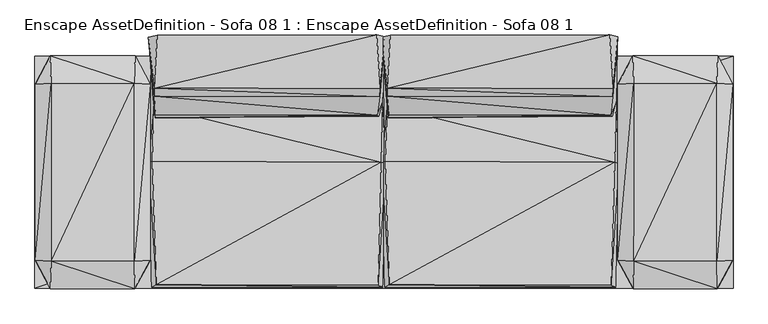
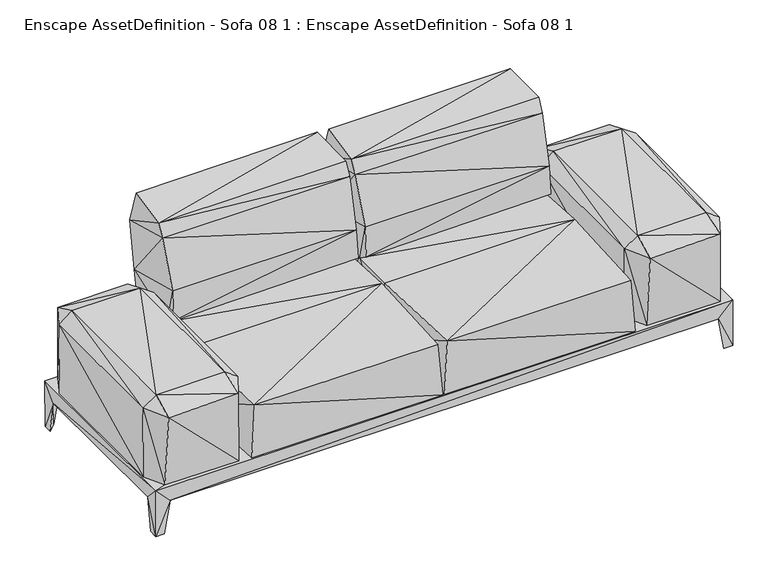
"""IFC4 building model written with IfcOpenShell, lengths in millimetres: geographic element geometry, Enscape AssetDefinition - Sofa 08 1 : Enscape AssetDefinition - Sofa 08 1."""

from ifc_helpers import new_model, si_unit, origin, place, context, project, spatial, faceted_brep, source, transform, mapped, element, save


def enscape_assetdefinition_sofa_08_1_enscape_assetdefinition_1a7c3e80(model_context):
    return source(origin(), model_context, "Body", "Brep", [
        faceted_brep([(-789.7258997, 220.4190344, 421.3458598), (-799.2539406, 382.3985159, 204.7660649), (-808.7129593, 25.8882251, 197.0976144), (-4.2853616, 383.6669028, 204.4889629), (-805.4899573, 430.4737747, 530.1804543), (-3.4210868, 236.204043, 414.9088264), (6.0689282, 25.2100099, 198.1359571), (1.3514294, 426.4724851, 532.6852202), (-4.491427, -401.5435874, 202.6953995), (-8.633743, 28.8991816, 434.1799617), (-19.9483391, -393.7140703, 426.2784123), (-798.4886765, -402.4558663, 204.1768581), (-782.084465, -393.1539059, 426.4154732), (-795.54075, 31.7740962, 429.394424), (-786.0017419, 180.3082824, 449.0676522), (-17.1394441, 185.6559813, 453.6941648), (-784.694314, 191.8689609, 574.2294788), (-22.2680736, 188.9300197, 576.4671564), (-788.7685895, 254.6459138, 768.3210969), (-808.9230061, 457.5283825, 731.772542), (2.177692, 459.384948, 729.8448682), (-789.5058393, 282.3407054, 819.4573522), (-13.8694057, 252.5962591, 768.4761286), (-12.2208828, 282.4867368, 818.9651966), (-25.137987, 465.2448297, 838.8414979), (-778.373301, 464.576602, 837.0609283)], [[[0, 1, 2]], [[1, 3, 2]], [[1, 4, 3]], [[0, 4, 1]], [[5, 6, 3]], [[5, 3, 7]], [[2, 3, 6]], [[3, 4, 7]], [[6, 8, 2]], [[6, 5, 9]], [[9, 10, 6]], [[6, 10, 8]], [[11, 8, 12]], [[2, 8, 11]], [[12, 8, 10]], [[10, 9, 12]], [[5, 0, 9]], [[9, 0, 13]], [[12, 9, 13]], [[11, 12, 2]], [[2, 12, 13]], [[0, 2, 13]], [[14, 0, 15]], [[16, 0, 14]], [[0, 16, 4]], [[15, 0, 5]], [[15, 17, 14]], [[5, 17, 15]], [[14, 17, 16]], [[16, 18, 4]], [[17, 18, 16]], [[19, 20, 4]], [[4, 18, 19]], [[4, 20, 7]], [[18, 21, 19]], [[22, 18, 17]], [[18, 22, 21]], [[17, 7, 22]], [[5, 7, 17]], [[22, 7, 20]], [[21, 22, 23]], [[20, 23, 22]], [[24, 20, 25]], [[24, 23, 20]], [[25, 20, 19]], [[19, 21, 25]], [[25, 21, 24]], [[24, 21, 23]]]),
        faceted_brep([(1146.6382742, 393.1779265, 505.2405), (854.8005819, 393.3999836, 504.7403574), (1142.9541111, 298.9039421, 547.6909876), (846.6510177, 379.2054951, 203.4446448), (1154.0796757, 379.6056211, 203.4346312), (803.1491637, 296.7282534, 506.9100261), (858.1006527, 298.9779711, 547.5940108), (1198.3417273, 295.2828109, 509.7669363), (1195.6057549, 295.4058349, 203.439638), (1195.5808401, -307.7047467, 204.4129372), (1142.9620981, -311.4479482, 547.4629402), (1198.1146336, -309.227258, 507.0731044), (1153.077364, -392.6147521, 203.4506351), (1152.4380445, -309.4603121, 199.5243877), (1152.4550915, 297.0113456, 199.2673129), (848.8476872, 296.9873548, 199.2633194), (848.8476872, -309.4743192, 199.2633194), (805.5939674, 295.2698171, 203.4166306), (805.5949211, -307.7567816, 203.4166306), (847.3171592, -391.9645548, 205.1431835), (803.2001853, -309.2202246, 507.0731044), (855.3667665, -406.2140584, 504.5422912), (858.3626747, -311.4479482, 547.4629402), (1144.9728012, -405.4788351, 509.2968345)], [[[0, 1, 2]], [[3, 1, 4]], [[1, 3, 5]], [[5, 6, 1]], [[2, 1, 6]], [[4, 1, 0]], [[0, 7, 4]], [[7, 0, 2]], [[8, 7, 9]], [[2, 10, 7]], [[9, 7, 11]], [[4, 7, 8]], [[7, 10, 11]], [[9, 12, 13]], [[13, 14, 9]], [[11, 12, 9]], [[9, 14, 8]], [[8, 14, 4]], [[14, 15, 4]], [[13, 15, 14]], [[16, 15, 13]], [[12, 16, 13]], [[17, 3, 15]], [[16, 17, 15]], [[4, 15, 3]], [[18, 17, 16]], [[16, 19, 18]], [[19, 16, 12]], [[18, 5, 17]], [[5, 3, 17]], [[20, 5, 18]], [[19, 20, 18]], [[21, 20, 19]], [[19, 12, 21]], [[22, 6, 20]], [[22, 20, 21]], [[20, 6, 5]], [[21, 23, 22]], [[21, 12, 23]], [[23, 12, 11]], [[11, 10, 23]], [[22, 23, 10]], [[10, 2, 22]], [[22, 2, 6]]]),
        faceted_brep([(1162.2812748, -403.6192298, 0.0), (1198.4487772, -404.2974412, 0.0), (1138.3526325, -404.1544199, 138.5380179), (1198.748827, -404.499501, 201.9141465), (1198.3087063, -344.2163765, 138.4359896), (1197.7715492, -368.1299388, 0.0), (1198.3087063, 332.6026797, 138.4359896), (1198.748827, 392.8868175, 201.9141465), (-1138.2005215, -404.1544199, 138.5380179), (-1198.5967159, -404.499501, 201.9141465), (-1162.1291637, -403.6192298, 0.0), (-1198.1565952, -344.2163765, 138.4359896), (-1198.2967854, -404.2974412, 0.0), (-1138.2005215, 392.5417364, 138.5380179), (-1197.6184845, -368.1299388, 0.0), (-1198.1565952, 332.6026797, 138.4359896), (-1198.5967159, 392.8868175, 201.9141465), (-1162.1291637, 392.0065463, 0.0), (-1198.2967854, 392.6847577, 0.0), (-1197.6184845, 356.5172851, 0.0), (1138.3526325, 392.5417364, 138.5380179), (1198.4487772, 392.6847577, 0.0), (1162.2812748, 392.0065463, 0.0), (1197.7715492, 356.5172851, 0.0)], [[[0, 1, 2]], [[3, 1, 4]], [[1, 0, 5]], [[2, 1, 3]], [[4, 1, 5]], [[2, 4, 0]], [[0, 4, 5]], [[2, 6, 4]], [[3, 4, 7]], [[7, 4, 6]], [[2, 3, 8]], [[8, 3, 9]], [[7, 9, 3]], [[8, 10, 11]], [[9, 12, 8]], [[8, 12, 10]], [[13, 2, 8]], [[13, 8, 11]], [[14, 10, 12]], [[11, 10, 14]], [[9, 11, 12]], [[12, 11, 14]], [[13, 11, 15]], [[9, 15, 11]], [[16, 15, 9]], [[16, 9, 7]], [[13, 15, 17]], [[16, 18, 15]], [[17, 15, 19]], [[15, 18, 19]], [[7, 13, 16]], [[13, 18, 16]], [[17, 18, 13]], [[18, 17, 19]], [[20, 13, 7]], [[2, 13, 20]], [[7, 21, 20]], [[7, 6, 21]], [[20, 22, 6]], [[2, 20, 6]], [[20, 21, 22]], [[23, 22, 21]], [[21, 6, 23]], [[6, 22, 23]]]),
        faceted_brep([(10.5283456, 220.4190344, 421.3458598), (1.0003179, 382.3985159, 204.7660649), (-8.4586879, 25.8882251, 197.0976144), (795.9688902, 383.6669028, 204.4889629), (-5.2356631, 430.4737747, 530.1804543), (796.8331575, 236.204043, 414.9088264), (806.3231707, 25.2100099, 198.1359571), (801.6057014, 426.4724851, 532.6852202), (795.7628369, -401.5435874, 202.6953995), (791.6205525, 28.8991816, 434.1799617), (780.305922, -393.7140703, 426.2784123), (1.7665612, -402.4558663, 204.1768581), (18.1697719, -393.1539059, 426.4154732), (4.7134976, 31.7740962, 429.394424), (14.2525285, 180.3082824, 449.0676522), (783.1147909, 185.6559813, 453.6941648), (15.5599434, 191.8689609, 574.2294788), (777.9861689, 188.9300197, 576.4671564), (11.4856493, 254.6459138, 768.3210969), (-8.6687542, 457.5283825, 731.772542), (802.431941, 459.384948, 729.8448682), (10.7484153, 282.3407054, 819.4573522), (786.3848805, 252.5962591, 768.4761286), (788.0343199, 282.4867368, 818.9651966), (775.1162648, 465.2448297, 838.8414979), (21.8809508, 464.576602, 837.0609283)], [[[0, 1, 2]], [[1, 3, 2]], [[1, 4, 3]], [[0, 4, 1]], [[5, 6, 3]], [[5, 3, 7]], [[2, 3, 6]], [[3, 4, 7]], [[6, 8, 2]], [[6, 5, 9]], [[9, 10, 6]], [[6, 10, 8]], [[11, 8, 12]], [[2, 8, 11]], [[12, 8, 10]], [[10, 9, 12]], [[5, 0, 9]], [[9, 0, 13]], [[12, 9, 13]], [[11, 12, 2]], [[2, 12, 13]], [[0, 2, 13]], [[14, 0, 15]], [[16, 0, 14]], [[0, 16, 4]], [[15, 0, 5]], [[15, 17, 14]], [[5, 17, 15]], [[14, 17, 16]], [[16, 18, 4]], [[17, 18, 16]], [[19, 20, 4]], [[4, 18, 19]], [[4, 20, 7]], [[18, 21, 19]], [[22, 18, 17]], [[18, 22, 21]], [[17, 7, 22]], [[5, 7, 17]], [[22, 7, 20]], [[21, 22, 23]], [[20, 23, 22]], [[24, 20, 25]], [[24, 23, 20]], [[25, 20, 19]], [[19, 21, 25]], [[25, 21, 24]], [[24, 21, 23]]]),
        faceted_brep([(-853.9973497, 393.1779265, 505.2405), (-1145.835042, 393.3999836, 504.7403574), (-857.6815128, 298.9039421, 547.6909876), (-1153.9846659, 379.2054951, 203.4446448), (-846.5559483, 379.6056211, 203.4346312), (-1197.4864006, 296.7282534, 506.9100261), (-1142.5349712, 298.9779711, 547.5940108), (-802.2938967, 295.2828109, 509.7669363), (-805.0297499, 295.4058349, 203.439638), (-805.0547838, -307.7047467, 204.4129372), (-857.6735258, -311.4479482, 547.4629402), (-802.5209904, -309.227258, 507.0731044), (-847.5583196, -392.6147521, 203.4506351), (-848.1974602, -309.4603121, 199.5243877), (-848.1804729, 297.0113456, 199.2673129), (-1151.7879963, 296.9873548, 199.2633194), (-1151.7879963, -309.4743192, 199.2633194), (-1195.0416565, 295.2698171, 203.4166306), (-1195.0407028, -307.7567816, 203.4166306), (-1153.3184052, -391.9645548, 205.1431835), (-1197.435379, -309.2202246, 507.0731044), (-1145.2687979, -406.2140584, 504.5422912), (-1142.27283, -311.4479482, 547.4629402), (-855.6628823, -405.4788351, 509.2968345)], [[[0, 1, 2]], [[3, 1, 4]], [[1, 3, 5]], [[5, 6, 1]], [[2, 1, 6]], [[4, 1, 0]], [[0, 7, 4]], [[7, 0, 2]], [[8, 7, 9]], [[2, 10, 7]], [[9, 7, 11]], [[4, 7, 8]], [[7, 10, 11]], [[9, 12, 13]], [[13, 14, 9]], [[11, 12, 9]], [[9, 14, 8]], [[8, 14, 4]], [[14, 15, 4]], [[13, 15, 14]], [[16, 15, 13]], [[12, 16, 13]], [[17, 3, 15]], [[16, 17, 15]], [[4, 15, 3]], [[18, 17, 16]], [[16, 19, 18]], [[19, 16, 12]], [[18, 5, 17]], [[5, 3, 17]], [[20, 5, 18]], [[19, 20, 18]], [[21, 20, 19]], [[19, 12, 21]], [[22, 6, 20]], [[22, 20, 21]], [[20, 6, 5]], [[21, 23, 22]], [[21, 12, 23]], [[23, 12, 11]], [[11, 10, 23]], [[22, 23, 10]], [[10, 2, 22]], [[22, 2, 6]]]),
    ])


if __name__ == "__main__":
    model = new_model("IFC4")
    model_context = context("Model", 3, world=origin())
    ifc_project = project(units=[si_unit("LENGTHUNIT", "METRE", prefix="MILLI")], contexts=[model_context])
    site = spatial("IfcSite", under=ifc_project)
    building = spatial("IfcBuilding", under=site)
    placement = place(None, origin())
    enscape_assetdefinition_sofa_08_1_enscape_assetdefinition_shape = enscape_assetdefinition_sofa_08_1_enscape_assetdefinition_1a7c3e80(model_context)
    element("IfcGeographicElement", 1, ObjectType="Enscape AssetDefinition - Sofa 08 1 : Enscape AssetDefinition - Sofa 08 1", at=placement, inside=building, context=model_context, shape_type="MappedRepresentation", body=[
        mapped(enscape_assetdefinition_sofa_08_1_enscape_assetdefinition_shape, transform((0.0, 0.0, 0.0), x_axis=(1.0, 0.0, 0.0), y_axis=(0.0, 1.0, 0.0), z_axis=(0.0, 0.0, 1.0))),
    ])
    save(model, "model.ifc")
